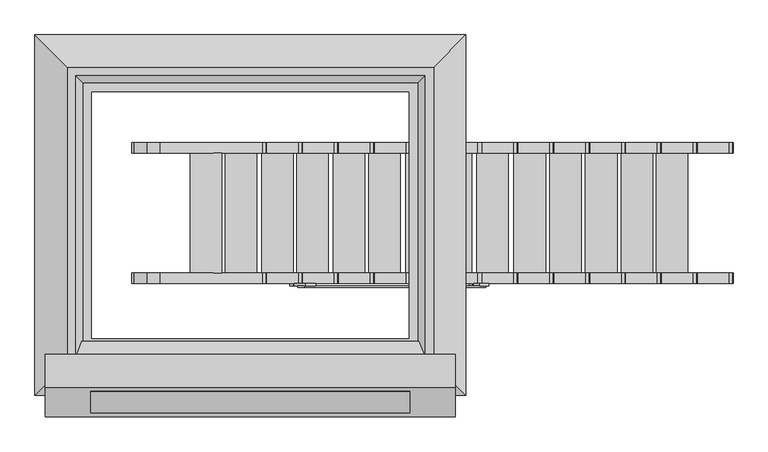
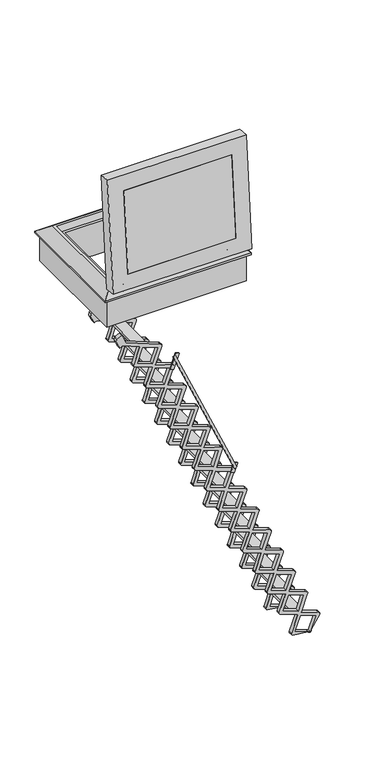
"""IFC4 building model written with IfcOpenShell, lengths in millimetres: proxy geometry, 1_Topaccess_dakluik_900x700_Staka : 900 x 700 Scissor stair."""

from ifc_helpers import new_model, si_unit, point, frame, frame_2d, origin, place, context, project, spatial, polyline, circle_curve, trimmed, segment, composite_curve, outline, extrude, faceted_brep, source, transform, mapped, element, save


def generic_models_e3b8b6f7(model_context):
    return source(origin(), model_context, "Body", "SolidModel", [
        extrude(outline(polyline([(570.5470332, 309.5637489), (660.5470332, 309.5637489), (660.5470332, -30.4362511), (570.5470332, -30.4362511), (570.5470332, 309.5637489)])), frame((0.0, 0.0, -3347.8373156), z_axis=(0.0, 0.0, 1.0), x_axis=(1.0, 0.0, 0.0)), (0.0, 0.0, 1.0), 20.0),
        extrude(outline(polyline([(471.2317417, 309.5637489), (561.2317417, 309.5637489), (561.2317417, -30.4362511), (471.2317417, -30.4362511), (471.2317417, 309.5637489)])), frame((0.0, 0.0, -3134.8549856), z_axis=(0.0, 0.0, 1.0), x_axis=(1.0, 0.0, 0.0)), (0.0, 0.0, 1.0), 20.0),
        extrude(outline(polyline([(369.8033589, 309.5637489), (459.8033589, 309.5637489), (459.8033589, -30.4362511), (369.8033589, -30.4362511), (369.8033589, 309.5637489)])), frame((0.0, 0.0, -2917.3411167), z_axis=(0.0, 0.0, 1.0), x_axis=(1.0, 0.0, 0.0)), (0.0, 0.0, 1.0), 20.0),
        extrude(outline(polyline([(268.3749761, 309.5637489), (358.3749761, 309.5637489), (358.3749761, -30.4362511), (268.3749761, -30.4362511), (268.3749761, 309.5637489)])), frame((0.0, 0.0, -2699.8272479), z_axis=(0.0, 0.0, 1.0), x_axis=(1.0, 0.0, 0.0)), (0.0, 0.0, 1.0), 20.0),
        extrude(outline(polyline([(166.9465933, 309.5637489), (256.9465933, 309.5637489), (256.9465933, -30.4362511), (166.9465933, -30.4362511), (166.9465933, 309.5637489)])), frame((0.0, 0.0, -2482.313379), z_axis=(0.0, 0.0, 1.0), x_axis=(1.0, 0.0, 0.0)), (0.0, 0.0, 1.0), 20.0),
        extrude(outline(polyline([(61.2920279, 309.5637489), (151.2920279, 309.5637489), (151.2920279, -30.4362511), (61.2920279, -30.4362511), (61.2920279, 309.5637489)])), frame((0.0, 0.0, -2255.7364322), z_axis=(0.0, 0.0, 1.0), x_axis=(1.0, 0.0, 0.0)), (0.0, 0.0, 1.0), 20.0),
        extrude(outline(polyline([(-42.2494463, 309.5637489), (47.7505537, 309.5637489), (47.7505537, -30.4362511), (-42.2494463, -30.4362511), (-42.2494463, 309.5637489)])), frame((0.0, 0.0, -2033.6910244), z_axis=(0.0, 0.0, 1.0), x_axis=(1.0, 0.0, 0.0)), (0.0, 0.0, 1.0), 20.0),
        extrude(outline(polyline([(-139.4516465, 309.5637489), (-49.4516465, 309.5637489), (-49.4516465, -30.4362511), (-139.4516465, -30.4362511), (-139.4516465, 309.5637489)])), frame((0.0, 0.0, -1825.2402334), z_axis=(0.0, 0.0, 1.0), x_axis=(1.0, 0.0, 0.0)), (0.0, 0.0, 1.0), 20.0),
        extrude(outline(polyline([(-245.1062119, 309.5637489), (-155.1062119, 309.5637489), (-155.1062119, -30.4362511), (-245.1062119, -30.4362511), (-245.1062119, 309.5637489)])), frame((0.0, 0.0, -1598.6632866), z_axis=(0.0, 0.0, 1.0), x_axis=(1.0, 0.0, 0.0)), (0.0, 0.0, 1.0), 20.0),
        extrude(outline(polyline([(-346.5345947, 309.5637489), (-256.5345947, 309.5637489), (-256.5345947, -30.4362511), (-346.5345947, -30.4362511), (-346.5345947, 309.5637489)])), frame((0.0, 0.0, -1381.1494177), z_axis=(0.0, 0.0, 1.0), x_axis=(1.0, 0.0, 0.0)), (0.0, 0.0, 1.0), 20.0),
        extrude(outline(polyline([(-450.0760689, 309.5637489), (-360.0760689, 309.5637489), (-360.0760689, -30.4362511), (-450.0760689, -30.4362511), (-450.0760689, 309.5637489)])), frame((0.0, 0.0, -1159.1040099), z_axis=(0.0, 0.0, 1.0), x_axis=(1.0, 0.0, 0.0)), (0.0, 0.0, 1.0), 20.0),
        extrude(outline(polyline([(-549.3913604, 309.5637489), (-459.3913604, 309.5637489), (-459.3913604, -30.4362511), (-549.3913604, -30.4362511), (-549.3913604, 309.5637489)])), frame((0.0, 0.0, -946.1216799), z_axis=(0.0, 0.0, 1.0), x_axis=(1.0, 0.0, 0.0)), (0.0, 0.0, 1.0), 20.0),
        extrude(outline(polyline([(-752.248126, 309.5637489), (-662.248126, 309.5637489), (-662.248126, -30.4362511), (-752.248126, -30.4362511), (-752.248126, 309.5637489)])), frame((0.0, 0.0, -511.0939422), z_axis=(0.0, 0.0, 1.0), x_axis=(1.0, 0.0, 0.0)), (0.0, 0.0, 1.0), 20.0),
        extrude(outline(polyline([(-1848.5871863, 87.1568399), (-679.430112, -428.6620593), (-687.8824772, -446.788215), (-1857.0395515, 69.0306842), (-1848.5871863, 87.1568399)])), frame((0.0, -71.8125013, 0.0), z_axis=(0.0, 1.0, 0.0), x_axis=(0.0, 0.0, 1.0)), (0.0, 0.0, 1.0), 4.2391265),
        extrude(outline(polyline([(-1818.2857955, 96.1520297), (-1808.0251912, 67.961251), (-1852.2156844, 51.8772269), (-1859.155812, 49.351227), (-1884.6989082, 40.0543003), (-1894.9595125, 68.2450789), (-1818.2857955, 96.1520297)])), frame((0.0, -67.5733748, 0.0), z_axis=(0.0, 1.0, 0.0), x_axis=(0.0, 0.0, 1.0)), (0.0, 0.0, 1.0), 7.1371237),
        extrude(outline(polyline([(-675.6789088, -395.3713998), (-665.4183045, -423.5621784), (-759.3305986, -457.7434581), (-766.2707262, -460.269458), (-791.8138224, -469.5663847), (-802.0744267, -441.3756061), (-675.6789088, -395.3713998)])), frame((0.0, -67.5733748, 0.0), z_axis=(0.0, 1.0, 0.0), x_axis=(0.0, 0.0, 1.0)), (0.0, 0.0, 1.0), 7.1371237),
        extrude(outline(polyline([(-652.9328345, 309.5637489), (-562.9328345, 309.5637489), (-562.9328345, -30.4362511), (-652.9328345, -30.4362511), (-652.9328345, 309.5637489)])), frame((0.0, 0.0, -724.0762721), z_axis=(0.0, 0.0, 1.0), x_axis=(1.0, 0.0, 0.0)), (0.0, 0.0, 1.0), 20.0),
        extrude(outline(composite_curve([segment(polyline([(-400.0, -918.1389816), (-459.6841455, -890.3078075), (-448.5287135, -866.3849064), (-505.7536819, -720.064007), (-651.1714225, -772.9917361)]), True, "CONTINUOUS"), segment(trimmed(circle_curve(frame_2d((-657.6247309, -755.2614169)), 18.8682116), [point((-651.1714225, -772.9917361))], [point((-662.9141564, -773.3730537))], False, "CARTESIAN"), True, "CONTINUOUS"), segment(trimmed(circle_curve(frame_2d((-653.5829213, -756.9737409)), 18.8682116), [point((-662.9141564, -773.3730537))], [point((-671.3132405, -763.4270493))], False, "CARTESIAN"), True, "CONTINUOUS"), segment(polyline([(-671.3132405, -763.4270493), (-724.2509683, -617.9818375), (-869.9038249, -670.9951418)]), True, "CONTINUOUS"), segment(trimmed(circle_curve(frame_2d((-876.3571333, -653.2648226)), 18.8682116), [point((-869.9038249, -670.9951418))], [point((-881.6465588, -671.3764593))], False, "CARTESIAN"), True, "CONTINUOUS"), segment(trimmed(circle_curve(frame_2d((-872.3153237, -654.9771466)), 18.8682116), [point((-881.6465588, -671.3764593))], [point((-890.0456429, -661.430455))], False, "CARTESIAN"), True, "CONTINUOUS"), segment(polyline([(-890.0456429, -661.430455), (-942.8977955, -516.2203591), (-1088.3155361, -569.1480882)]), True, "CONTINUOUS"), segment(trimmed(circle_curve(frame_2d((-1094.7688445, -551.417769)), 18.8682116), [point((-1088.3155361, -569.1480882))], [point((-1100.05827, -569.5294058))], False, "CARTESIAN"), True, "CONTINUOUS"), segment(trimmed(circle_curve(frame_2d((-1090.727035, -553.130093)), 18.8682116), [point((-1100.05827, -569.5294058))], [point((-1108.4573541, -559.5834014))], False, "CARTESIAN"), True, "CONTINUOUS"), segment(polyline([(-1108.4573541, -559.5834014), (-1161.395082, -414.1381896), (-1307.0479385, -467.1514939)]), True, "CONTINUOUS"), segment(trimmed(circle_curve(frame_2d((-1313.5012469, -449.4211747)), 18.8682116), [point((-1307.0479385, -467.1514939))], [point((-1318.7906724, -467.5328114))], False, "CARTESIAN"), True, "CONTINUOUS"), segment(trimmed(circle_curve(frame_2d((-1309.4594374, -451.1334987)), 18.8682116), [point((-1318.7906724, -467.5328114))], [point((-1327.1897565, -457.5868071))], False, "CARTESIAN"), True, "CONTINUOUS"), segment(polyline([(-1327.1897565, -457.5868071), (-1380.0419091, -312.3767112), (-1525.4596497, -365.3044403)]), True, "CONTINUOUS"), segment(trimmed(circle_curve(frame_2d((-1531.9129582, -347.5741211)), 18.8682116), [point((-1525.4596497, -365.3044403))], [point((-1537.2023836, -365.6857579))], False, "CARTESIAN"), True, "CONTINUOUS"), segment(trimmed(circle_curve(frame_2d((-1527.8711486, -349.2864451)), 18.8682116), [point((-1537.2023836, -365.6857579))], [point((-1545.6014678, -355.7397535))], False, "CARTESIAN"), True, "CONTINUOUS"), segment(polyline([(-1545.6014678, -355.7397535), (-1598.5886014, -210.1588002), (-1744.3771995, -263.2215103)]), True, "CONTINUOUS"), segment(trimmed(circle_curve(frame_2d((-1750.8305079, -245.4911912)), 18.8682116), [point((-1744.3771995, -263.2215103))], [point((-1756.1199334, -263.6028279))], False, "CARTESIAN"), True, "CONTINUOUS"), segment(trimmed(circle_curve(frame_2d((-1746.7886983, -247.2035151)), 18.8682116), [point((-1756.1199334, -263.6028279))], [point((-1764.5190175, -253.6568236))], False, "CARTESIAN"), True, "CONTINUOUS"), segment(polyline([(-1764.5190175, -253.6568236), (-1817.3711701, -108.4467277), (-1962.7889107, -161.3744568)]), True, "CONTINUOUS"), segment(trimmed(circle_curve(frame_2d((-1969.2422191, -143.6441376)), 18.8682116), [point((-1962.7889107, -161.3744568))], [point((-1974.5316446, -161.7557743))], False, "CARTESIAN"), True, "CONTINUOUS"), segment(trimmed(circle_curve(frame_2d((-1965.2004096, -145.3564616)), 18.8682116), [point((-1974.5316446, -161.7557743))], [point((-1982.9307287, -151.80977))], False, "CARTESIAN"), True, "CONTINUOUS"), segment(polyline([(-1982.9307287, -151.80977), (-2035.8684566, -6.3645581), (-2181.5213131, -59.3778624)]), True, "CONTINUOUS"), segment(trimmed(circle_curve(frame_2d((-2187.9746215, -41.6475433)), 18.8682116), [point((-2181.5213131, -59.3778624))], [point((-2193.264047, -59.75918))], False, "CARTESIAN"), True, "CONTINUOUS"), segment(trimmed(circle_curve(frame_2d((-2183.932812, -43.3598672)), 18.8682116), [point((-2193.264047, -59.75918))], [point((-2201.6631311, -49.8131757))], False, "CARTESIAN"), True, "CONTINUOUS"), segment(polyline([(-2201.6631311, -49.8131757), (-2254.5152837, 95.3969202), (-2399.9330243, 42.4691911)]), True, "CONTINUOUS"), segment(trimmed(circle_curve(frame_2d((-2406.3863327, 60.1995103)), 18.8682116), [point((-2399.9330243, 42.4691911))], [point((-2411.6757582, 42.0878736))], False, "CARTESIAN"), True, "CONTINUOUS"), segment(trimmed(circle_curve(frame_2d((-2402.3445232, 58.4871863)), 18.8682116), [point((-2411.6757582, 42.0878736))], [point((-2420.0748423, 52.0338779))], False, "CARTESIAN"), True, "CONTINUOUS"), segment(polyline([(-2420.0748423, 52.0338779), (-2473.0125702, 197.4790898), (-2618.6654267, 144.4657855)]), True, "CONTINUOUS"), segment(trimmed(circle_curve(frame_2d((-2625.1187351, 162.1961046)), 18.8682116), [point((-2618.6654267, 144.4657855))], [point((-2630.4081606, 144.0844679))], False, "CARTESIAN"), True, "CONTINUOUS"), segment(trimmed(circle_curve(frame_2d((-2621.0769256, 160.4837807)), 18.8682116), [point((-2630.4081606, 144.0844679))], [point((-2638.8072447, 154.0304722))], False, "CARTESIAN"), True, "CONTINUOUS"), segment(polyline([(-2638.8072447, 154.0304722), (-2691.6593974, 299.2405681), (-2837.0771379, 246.312839)]), True, "CONTINUOUS"), segment(trimmed(circle_curve(frame_2d((-2843.5304464, 264.0431582)), 18.8682116), [point((-2837.0771379, 246.312839))], [point((-2848.8198718, 245.9315215))], False, "CARTESIAN"), True, "CONTINUOUS"), segment(trimmed(circle_curve(frame_2d((-2839.4886368, 262.3308342)), 18.8682116), [point((-2848.8198718, 245.9315215))], [point((-2857.218956, 255.8775258))], False, "CARTESIAN"), True, "CONTINUOUS"), segment(polyline([(-2857.218956, 255.8775258), (-2910.1566838, 401.3227377), (-3055.8095403, 348.3094333)]), True, "CONTINUOUS"), segment(trimmed(circle_curve(frame_2d((-3062.2628488, 366.0397525)), 18.8682116), [point((-3055.8095403, 348.3094333))], [point((-3067.5522742, 347.9281158))], False, "CARTESIAN"), True, "CONTINUOUS"), segment(trimmed(circle_curve(frame_2d((-3058.2210392, 364.3274286)), 18.8682116), [point((-3067.5522742, 347.9281158))], [point((-3075.9513584, 357.8741201))], False, "CARTESIAN"), True, "CONTINUOUS"), segment(polyline([(-3075.9513584, 357.8741201), (-3128.803511, 503.084216), (-3274.2212516, 450.1564869)]), True, "CONTINUOUS"), segment(trimmed(circle_curve(frame_2d((-3280.67456, 467.8868061)), 18.8682116), [point((-3274.2212516, 450.1564869))], [point((-3285.9639855, 449.7751693))], False, "CARTESIAN"), True, "CONTINUOUS"), segment(trimmed(circle_curve(frame_2d((-3276.6327504, 466.1744821)), 18.8682116), [point((-3285.9639855, 449.7751693))], [point((-3294.3630696, 459.7211737))], False, "CARTESIAN"), True, "CONTINUOUS"), segment(polyline([(-3294.3630696, 459.7211737), (-3347.3385857, 605.2702079), (-3492.8876199, 552.2946918)]), True, "CONTINUOUS"), segment(trimmed(circle_curve(frame_2d((-3499.3409283, 570.025011)), 18.8682116), [point((-3492.8876199, 552.2946918))], [point((-3505.9055284, 552.3355952))], False, "CARTESIAN"), True, "CONTINUOUS"), segment(trimmed(circle_curve(frame_2d((-3495.4311869, 568.0294659)), 18.8682116), [point((-3505.9055284, 552.3355952))], [point((-3513.1615061, 561.5761575))], False, "CARTESIAN"), True, "CONTINUOUS"), segment(polyline([(-3513.1615061, 561.5761575), (-3529.9223168, 690.3237832)]), True, "CONTINUOUS"), segment(trimmed(circle_curve(frame_2d((-3523.5830429, 703.9184)), 15.0), [point((-3529.9223168, 690.3237832))], [point((-3535.6258818, 712.8609965))], False, "CARTESIAN"), True, "CONTINUOUS"), segment(trimmed(circle_curve(frame_2d((-3523.5830429, 703.9184)), 15.0), [point((-3535.6258818, 712.8609965))], [point((-3517.1032288, 717.4465931))], False, "CARTESIAN"), True, "CONTINUOUS"), segment(polyline([(-3517.1032288, 717.4465931), (-3407.87312, 788.1656253)]), True, "CONTINUOUS"), segment(trimmed(circle_curve(frame_2d((-3400.887595, 769.981058)), 19.4801449), [point((-3407.87312, 788.1656253))], [point((-3395.0042927, 788.55154))], False, "CARTESIAN"), True, "CONTINUOUS"), segment(trimmed(circle_curve(frame_2d((-3405.5582289, 772.1840786)), 19.4750959), [point((-3395.0042927, 788.55154))], [point((-3387.1280326, 778.477506))], False, "CARTESIAN"), True, "CONTINUOUS"), segment(polyline([(-3387.1280326, 778.477506), (-3334.5756226, 632.6404705), (-3189.0779339, 686.1252283)]), True, "CONTINUOUS"), segment(trimmed(circle_curve(frame_2d((-3182.0522773, 667.9615417)), 19.4750959), [point((-3189.0779339, 686.1252283))], [point((-3176.2980138, 686.5671272))], False, "CARTESIAN"), True, "CONTINUOUS"), segment(trimmed(circle_curve(frame_2d((-3186.7421145, 670.1233805)), 19.4801449), [point((-3176.2980138, 686.5671272))], [point((-3168.3217189, 676.4609724))], False, "CARTESIAN"), True, "CONTINUOUS"), segment(polyline([(-3168.3217189, 676.4609724), (-3116.1639114, 530.7934169), (-2970.6662227, 584.2781747)]), True, "CONTINUOUS"), segment(trimmed(circle_curve(frame_2d((-2963.6405661, 566.1144881)), 19.4750959), [point((-2970.6662227, 584.2781747))], [point((-2957.8863026, 584.7200737))], False, "CARTESIAN"), True, "CONTINUOUS"), segment(trimmed(circle_curve(frame_2d((-2968.3304033, 568.276327)), 19.4801449), [point((-2957.8863026, 584.7200737))], [point((-2949.9100077, 574.6139189))], False, "CARTESIAN"), True, "CONTINUOUS"), segment(polyline([(-2949.9100077, 574.6139189), (-2897.6675829, 428.7100421), (-2751.9338203, 482.2815804)]), True, "CONTINUOUS"), segment(trimmed(circle_curve(frame_2d((-2744.9081637, 464.1178938)), 19.4750959), [point((-2751.9338203, 482.2815804))], [point((-2739.1539002, 482.7234794))], False, "CARTESIAN"), True, "CONTINUOUS"), segment(trimmed(circle_curve(frame_2d((-2749.5980009, 466.2797326)), 19.4801449), [point((-2739.1539002, 482.7234794))], [point((-2731.1776053, 472.6173245))], False, "CARTESIAN"), True, "CONTINUOUS"), segment(polyline([(-2731.1776053, 472.6173245), (-2679.0197978, 326.949769), (-2533.5221091, 380.4345268)]), True, "CONTINUOUS"), segment(trimmed(circle_curve(frame_2d((-2526.4964524, 362.2708402)), 19.4750959), [point((-2533.5221091, 380.4345268))], [point((-2520.7421889, 380.8764258))], False, "CARTESIAN"), True, "CONTINUOUS"), segment(trimmed(circle_curve(frame_2d((-2531.1862897, 364.4326791)), 19.4801449), [point((-2520.7421889, 380.8764258))], [point((-2512.7658941, 370.770271))], False, "CARTESIAN"), True, "CONTINUOUS"), segment(polyline([(-2512.7658941, 370.770271), (-2460.5234693, 224.8663942), (-2314.7897067, 278.4379325)]), True, "CONTINUOUS"), segment(trimmed(circle_curve(frame_2d((-2307.76405, 260.2742459)), 19.4750959), [point((-2314.7897067, 278.4379325))], [point((-2302.0097866, 278.8798315))], False, "CARTESIAN"), True, "CONTINUOUS"), segment(trimmed(circle_curve(frame_2d((-2312.4538873, 262.4360847)), 19.4801449), [point((-2302.0097866, 278.8798315))], [point((-2294.0334917, 268.7736766))], False, "CARTESIAN"), True, "CONTINUOUS"), segment(polyline([(-2294.0334917, 268.7736766), (-2241.8756842, 123.1061211), (-2096.3779954, 176.5908789)]), True, "CONTINUOUS"), segment(trimmed(circle_curve(frame_2d((-2089.3523388, 158.4271923)), 19.4750959), [point((-2096.3779954, 176.5908789))], [point((-2083.5980753, 177.0327779))], False, "CARTESIAN"), True, "CONTINUOUS"), segment(trimmed(circle_curve(frame_2d((-2094.0421761, 160.5890312)), 19.4801449), [point((-2083.5980753, 177.0327779))], [point((-2075.6217804, 166.9266231))], False, "CARTESIAN"), True, "CONTINUOUS"), segment(polyline([(-2075.6217804, 166.9266231), (-2023.3793556, 21.0227463), (-1877.6455931, 74.5942846)]), True, "CONTINUOUS"), segment(trimmed(circle_curve(frame_2d((-1870.6199364, 56.430598)), 19.4750959), [point((-1877.6455931, 74.5942846))], [point((-1864.8656729, 75.0361836))], False, "CARTESIAN"), True, "CONTINUOUS"), segment(trimmed(circle_curve(frame_2d((-1875.3097737, 58.5924368)), 19.4801449), [point((-1864.8656729, 75.0361836))], [point((-1856.889378, 64.9300287))], False, "CARTESIAN"), True, "CONTINUOUS"), segment(polyline([(-1856.889378, 64.9300287), (-1804.7315705, -80.7375268), (-1659.2338818, -27.252769)]), True, "CONTINUOUS"), segment(trimmed(circle_curve(frame_2d((-1652.2082252, -45.4164556)), 19.4750959), [point((-1659.2338818, -27.252769))], [point((-1646.4539617, -26.81087))], False, "CARTESIAN"), True, "CONTINUOUS"), segment(trimmed(circle_curve(frame_2d((-1656.8980625, -43.2546167)), 19.4801449), [point((-1646.4539617, -26.81087))], [point((-1638.4776668, -36.9170248))], False, "CARTESIAN"), True, "CONTINUOUS"), segment(polyline([(-1638.4776668, -36.9170248), (-1586.1863892, -182.9573389), (-1440.3163321, -129.3356989)]), True, "CONTINUOUS"), segment(trimmed(circle_curve(frame_2d((-1433.2906755, -147.4993855)), 19.4750959), [point((-1440.3163321, -129.3356989))], [point((-1427.536412, -128.8938))], False, "CARTESIAN"), True, "CONTINUOUS"), segment(trimmed(circle_curve(frame_2d((-1437.9805127, -145.3375467)), 19.4801449), [point((-1427.536412, -128.8938))], [point((-1419.5601171, -138.9999548))], False, "CARTESIAN"), True, "CONTINUOUS"), segment(polyline([(-1419.5601171, -138.9999548), (-1367.4023096, -284.6675103), (-1221.9046209, -231.1827525)]), True, "CONTINUOUS"), segment(trimmed(circle_curve(frame_2d((-1214.8789642, -249.3464391)), 19.4750959), [point((-1221.9046209, -231.1827525))], [point((-1209.1247007, -230.7408535))], False, "CARTESIAN"), True, "CONTINUOUS"), segment(trimmed(circle_curve(frame_2d((-1219.5688015, -247.1846003)), 19.4801449), [point((-1209.1247007, -230.7408535))], [point((-1201.1484059, -240.8470084))], False, "CARTESIAN"), True, "CONTINUOUS"), segment(polyline([(-1201.1484059, -240.8470084), (-1148.905981, -386.7508851), (-1003.1722185, -333.1793468)]), True, "CONTINUOUS"), segment(trimmed(circle_curve(frame_2d((-996.1465618, -351.3430334)), 19.4750959), [point((-1003.1722185, -333.1793468))], [point((-990.3922983, -332.7374479))], False, "CARTESIAN"), True, "CONTINUOUS"), segment(trimmed(circle_curve(frame_2d((-1000.8363991, -349.1811946)), 19.4801449), [point((-990.3922983, -332.7374479))], [point((-982.4160035, -342.8436027))], False, "CARTESIAN"), True, "CONTINUOUS"), segment(polyline([(-982.4160035, -342.8436027), (-930.258196, -488.5111582), (-784.7605072, -435.0264004)]), True, "CONTINUOUS"), segment(trimmed(circle_curve(frame_2d((-777.7348506, -453.190087)), 19.4750959), [point((-784.7605072, -435.0264004))], [point((-771.9805871, -434.5845014))], False, "CARTESIAN"), True, "CONTINUOUS"), segment(trimmed(circle_curve(frame_2d((-782.4246879, -451.0282482)), 19.4801449), [point((-771.9805871, -434.5845014))], [point((-764.0042922, -444.6906563))], False, "CARTESIAN"), True, "CONTINUOUS"), segment(polyline([(-764.0042922, -444.6906563), (-711.7618674, -590.594533), (-566.0281048, -537.0229947)]), True, "CONTINUOUS"), segment(trimmed(circle_curve(frame_2d((-559.0024482, -555.1866813)), 19.4750959), [point((-566.0281048, -537.0229947))], [point((-553.2481847, -536.5810958))], False, "CARTESIAN"), True, "CONTINUOUS"), segment(trimmed(circle_curve(frame_2d((-563.6922855, -553.0248425)), 19.4801449), [point((-553.2481847, -536.5810958))], [point((-545.2718898, -546.6872506))], False, "CARTESIAN"), True, "CONTINUOUS"), segment(polyline([(-545.2718898, -546.6872506), (-431.6663168, -837.1700604), (-353.0603882, -873.8246069), (-371.3705305, -913.0908337), (-400.0, -918.1389816)]), True, "CONTINUOUS")], self_intersect=False), holes=[polyline([(-3410.9584344, 754.3718745), (-3534.9785883, 709.2322301), (-3489.8389438, 585.2120762), (-3365.8187899, 630.3517207), (-3410.9584344, 754.3718745)]), polyline([(-3192.226032, 652.3752802), (-3316.2461859, 607.2356358), (-3271.1065414, 483.2154819), (-3147.0863875, 528.3551263), (-3192.226032, 652.3752802)]), polyline([(-2973.8143208, 550.5282266), (-3097.8344746, 505.3885822), (-3052.6948302, 381.3684283), (-2928.6746763, 426.5080728), (-2973.8143208, 550.5282266)]), polyline([(-2755.0819184, 448.5316323), (-2879.1020722, 403.3919879), (-2833.9624278, 279.371834), (-2709.9422739, 324.5114784), (-2755.0819184, 448.5316323)]), polyline([(-2536.6702071, 346.6845787), (-2660.690361, 301.5449343), (-2615.5507166, 177.5247804), (-2491.5305627, 222.6644249), (-2536.6702071, 346.6845787)]), polyline([(-2317.9378047, 244.6879844), (-2441.9579586, 199.54834), (-2396.8183142, 75.5281861), (-2272.7981603, 120.6678305), (-2317.9378047, 244.6879844)]), polyline([(-2099.5260935, 142.8409308), (-2223.5462474, 97.7012864), (-2178.4066029, -26.3188675), (-2054.3864491, 18.820777), (-2099.5260935, 142.8409308)]), polyline([(-1880.7936911, 40.8443365), (-2004.813845, -4.2953079), (-1959.6742005, -128.3154618), (-1835.6540467, -83.1758174), (-1880.7936911, 40.8443365)]), polyline([(-1662.3819799, -61.0027171), (-1786.4021338, -106.1423615), (-1741.2624893, -230.1625154), (-1617.2423354, -185.0228709), (-1662.3819799, -61.0027171)]), polyline([(-1443.4644302, -163.085647), (-1567.484584, -208.2252915), (-1522.3449396, -332.2454453), (-1398.3247857, -287.1058009), (-1443.4644302, -163.085647)]), polyline([(-1225.0527189, -264.9327006), (-1349.0728728, -310.072345), (-1303.9332283, -434.0924989), (-1179.9130745, -388.9528545), (-1225.0527189, -264.9327006)]), polyline([(-1006.3203165, -366.9292949), (-1130.3404704, -412.0689394), (-1085.200826, -536.0890932), (-961.1806721, -490.9494488), (-1006.3203165, -366.9292949)]), polyline([(-787.9086053, -468.7763485), (-911.9287592, -513.9159929), (-866.7891147, -637.9361468), (-742.7689609, -592.7965024), (-787.9086053, -468.7763485)]), polyline([(-569.1762029, -570.7729428), (-693.1963568, -615.9125873), (-648.0567123, -739.9327411), (-524.0365585, -694.7930967), (-569.1762029, -570.7729428)])]), frame((0.0, -60.4362511, 0.0), z_axis=(0.0, 1.0, 0.0), x_axis=(0.0, 0.0, 1.0)), (0.0, 0.0, 1.0), 30.0),
        extrude(outline(composite_curve([segment(polyline([(-400.0, -918.1389816), (-459.6841455, -890.3078075), (-448.5287135, -866.3849064), (-505.7536819, -720.064007), (-651.1714225, -772.9917361)]), True, "CONTINUOUS"), segment(trimmed(circle_curve(frame_2d((-657.6247309, -755.2614169)), 18.8682116), [point((-651.1714225, -772.9917361))], [point((-662.9141564, -773.3730537))], False, "CARTESIAN"), True, "CONTINUOUS"), segment(trimmed(circle_curve(frame_2d((-653.5829213, -756.9737409)), 18.8682116), [point((-662.9141564, -773.3730537))], [point((-671.3132405, -763.4270493))], False, "CARTESIAN"), True, "CONTINUOUS"), segment(polyline([(-671.3132405, -763.4270493), (-724.2509683, -617.9818375), (-869.9038249, -670.9951418)]), True, "CONTINUOUS"), segment(trimmed(circle_curve(frame_2d((-876.3571333, -653.2648226)), 18.8682116), [point((-869.9038249, -670.9951418))], [point((-881.6465588, -671.3764593))], False, "CARTESIAN"), True, "CONTINUOUS"), segment(trimmed(circle_curve(frame_2d((-872.3153237, -654.9771466)), 18.8682116), [point((-881.6465588, -671.3764593))], [point((-890.0456429, -661.430455))], False, "CARTESIAN"), True, "CONTINUOUS"), segment(polyline([(-890.0456429, -661.430455), (-942.8977955, -516.2203591), (-1088.3155361, -569.1480882)]), True, "CONTINUOUS"), segment(trimmed(circle_curve(frame_2d((-1094.7688445, -551.417769)), 18.8682116), [point((-1088.3155361, -569.1480882))], [point((-1100.05827, -569.5294058))], False, "CARTESIAN"), True, "CONTINUOUS"), segment(trimmed(circle_curve(frame_2d((-1090.727035, -553.130093)), 18.8682116), [point((-1100.05827, -569.5294058))], [point((-1108.4573541, -559.5834014))], False, "CARTESIAN"), True, "CONTINUOUS"), segment(polyline([(-1108.4573541, -559.5834014), (-1161.395082, -414.1381896), (-1307.0479385, -467.1514939)]), True, "CONTINUOUS"), segment(trimmed(circle_curve(frame_2d((-1313.5012469, -449.4211747)), 18.8682116), [point((-1307.0479385, -467.1514939))], [point((-1318.7906724, -467.5328114))], False, "CARTESIAN"), True, "CONTINUOUS"), segment(trimmed(circle_curve(frame_2d((-1309.4594374, -451.1334987)), 18.8682116), [point((-1318.7906724, -467.5328114))], [point((-1327.1897565, -457.5868071))], False, "CARTESIAN"), True, "CONTINUOUS"), segment(polyline([(-1327.1897565, -457.5868071), (-1380.0419091, -312.3767112), (-1525.4596497, -365.3044403)]), True, "CONTINUOUS"), segment(trimmed(circle_curve(frame_2d((-1531.9129582, -347.5741211)), 18.8682116), [point((-1525.4596497, -365.3044403))], [point((-1537.2023836, -365.6857579))], False, "CARTESIAN"), True, "CONTINUOUS"), segment(trimmed(circle_curve(frame_2d((-1527.8711486, -349.2864451)), 18.8682116), [point((-1537.2023836, -365.6857579))], [point((-1545.6014678, -355.7397535))], False, "CARTESIAN"), True, "CONTINUOUS"), segment(polyline([(-1545.6014678, -355.7397535), (-1598.5886014, -210.1588002), (-1744.3771995, -263.2215103)]), True, "CONTINUOUS"), segment(trimmed(circle_curve(frame_2d((-1750.8305079, -245.4911912)), 18.8682116), [point((-1744.3771995, -263.2215103))], [point((-1756.1199334, -263.6028279))], False, "CARTESIAN"), True, "CONTINUOUS"), segment(trimmed(circle_curve(frame_2d((-1746.7886983, -247.2035151)), 18.8682116), [point((-1756.1199334, -263.6028279))], [point((-1764.5190175, -253.6568236))], False, "CARTESIAN"), True, "CONTINUOUS"), segment(polyline([(-1764.5190175, -253.6568236), (-1817.3711701, -108.4467277), (-1962.7889107, -161.3744568)]), True, "CONTINUOUS"), segment(trimmed(circle_curve(frame_2d((-1969.2422191, -143.6441376)), 18.8682116), [point((-1962.7889107, -161.3744568))], [point((-1974.5316446, -161.7557743))], False, "CARTESIAN"), True, "CONTINUOUS"), segment(trimmed(circle_curve(frame_2d((-1965.2004096, -145.3564616)), 18.8682116), [point((-1974.5316446, -161.7557743))], [point((-1982.9307287, -151.80977))], False, "CARTESIAN"), True, "CONTINUOUS"), segment(polyline([(-1982.9307287, -151.80977), (-2035.8684566, -6.3645581), (-2181.5213131, -59.3778624)]), True, "CONTINUOUS"), segment(trimmed(circle_curve(frame_2d((-2187.9746215, -41.6475433)), 18.8682116), [point((-2181.5213131, -59.3778624))], [point((-2193.264047, -59.75918))], False, "CARTESIAN"), True, "CONTINUOUS"), segment(trimmed(circle_curve(frame_2d((-2183.932812, -43.3598672)), 18.8682116), [point((-2193.264047, -59.75918))], [point((-2201.6631311, -49.8131757))], False, "CARTESIAN"), True, "CONTINUOUS"), segment(polyline([(-2201.6631311, -49.8131757), (-2254.5152837, 95.3969202), (-2399.9330243, 42.4691911)]), True, "CONTINUOUS"), segment(trimmed(circle_curve(frame_2d((-2406.3863327, 60.1995103)), 18.8682116), [point((-2399.9330243, 42.4691911))], [point((-2411.6757582, 42.0878736))], False, "CARTESIAN"), True, "CONTINUOUS"), segment(trimmed(circle_curve(frame_2d((-2402.3445232, 58.4871863)), 18.8682116), [point((-2411.6757582, 42.0878736))], [point((-2420.0748423, 52.0338779))], False, "CARTESIAN"), True, "CONTINUOUS"), segment(polyline([(-2420.0748423, 52.0338779), (-2473.0125702, 197.4790898), (-2618.6654267, 144.4657855)]), True, "CONTINUOUS"), segment(trimmed(circle_curve(frame_2d((-2625.1187351, 162.1961046)), 18.8682116), [point((-2618.6654267, 144.4657855))], [point((-2630.4081606, 144.0844679))], False, "CARTESIAN"), True, "CONTINUOUS"), segment(trimmed(circle_curve(frame_2d((-2621.0769256, 160.4837807)), 18.8682116), [point((-2630.4081606, 144.0844679))], [point((-2638.8072447, 154.0304722))], False, "CARTESIAN"), True, "CONTINUOUS"), segment(polyline([(-2638.8072447, 154.0304722), (-2691.6593974, 299.2405681), (-2837.0771379, 246.312839)]), True, "CONTINUOUS"), segment(trimmed(circle_curve(frame_2d((-2843.5304464, 264.0431582)), 18.8682116), [point((-2837.0771379, 246.312839))], [point((-2848.8198718, 245.9315215))], False, "CARTESIAN"), True, "CONTINUOUS"), segment(trimmed(circle_curve(frame_2d((-2839.4886368, 262.3308342)), 18.8682116), [point((-2848.8198718, 245.9315215))], [point((-2857.218956, 255.8775258))], False, "CARTESIAN"), True, "CONTINUOUS"), segment(polyline([(-2857.218956, 255.8775258), (-2910.1566838, 401.3227377), (-3055.8095403, 348.3094333)]), True, "CONTINUOUS"), segment(trimmed(circle_curve(frame_2d((-3062.2628488, 366.0397525)), 18.8682116), [point((-3055.8095403, 348.3094333))], [point((-3067.5522742, 347.9281158))], False, "CARTESIAN"), True, "CONTINUOUS"), segment(trimmed(circle_curve(frame_2d((-3058.2210392, 364.3274286)), 18.8682116), [point((-3067.5522742, 347.9281158))], [point((-3075.9513584, 357.8741201))], False, "CARTESIAN"), True, "CONTINUOUS"), segment(polyline([(-3075.9513584, 357.8741201), (-3128.803511, 503.084216), (-3274.2212516, 450.1564869)]), True, "CONTINUOUS"), segment(trimmed(circle_curve(frame_2d((-3280.67456, 467.8868061)), 18.8682116), [point((-3274.2212516, 450.1564869))], [point((-3285.9639855, 449.7751693))], False, "CARTESIAN"), True, "CONTINUOUS"), segment(trimmed(circle_curve(frame_2d((-3276.6327504, 466.1744821)), 18.8682116), [point((-3285.9639855, 449.7751693))], [point((-3294.3630696, 459.7211737))], False, "CARTESIAN"), True, "CONTINUOUS"), segment(polyline([(-3294.3630696, 459.7211737), (-3347.3385857, 605.2702079), (-3492.8876199, 552.2946918)]), True, "CONTINUOUS"), segment(trimmed(circle_curve(frame_2d((-3499.3409283, 570.025011)), 18.8682116), [point((-3492.8876199, 552.2946918))], [point((-3505.9055284, 552.3355952))], False, "CARTESIAN"), True, "CONTINUOUS"), segment(trimmed(circle_curve(frame_2d((-3495.4311869, 568.0294659)), 18.8682116), [point((-3505.9055284, 552.3355952))], [point((-3513.1615061, 561.5761575))], False, "CARTESIAN"), True, "CONTINUOUS"), segment(polyline([(-3513.1615061, 561.5761575), (-3529.9223168, 690.3237832)]), True, "CONTINUOUS"), segment(trimmed(circle_curve(frame_2d((-3523.5830429, 703.9184)), 15.0), [point((-3529.9223168, 690.3237832))], [point((-3535.6258818, 712.8609965))], False, "CARTESIAN"), True, "CONTINUOUS"), segment(trimmed(circle_curve(frame_2d((-3523.5830429, 703.9184)), 15.0), [point((-3535.6258818, 712.8609965))], [point((-3517.1032288, 717.4465931))], False, "CARTESIAN"), True, "CONTINUOUS"), segment(polyline([(-3517.1032288, 717.4465931), (-3407.87312, 788.1656253)]), True, "CONTINUOUS"), segment(trimmed(circle_curve(frame_2d((-3400.887595, 769.981058)), 19.4801449), [point((-3407.87312, 788.1656253))], [point((-3395.0042927, 788.55154))], False, "CARTESIAN"), True, "CONTINUOUS"), segment(trimmed(circle_curve(frame_2d((-3405.5582289, 772.1840786)), 19.4750959), [point((-3395.0042927, 788.55154))], [point((-3387.1280326, 778.477506))], False, "CARTESIAN"), True, "CONTINUOUS"), segment(polyline([(-3387.1280326, 778.477506), (-3334.5756226, 632.6404705), (-3189.0779339, 686.1252283)]), True, "CONTINUOUS"), segment(trimmed(circle_curve(frame_2d((-3182.0522773, 667.9615417)), 19.4750959), [point((-3189.0779339, 686.1252283))], [point((-3176.2980138, 686.5671272))], False, "CARTESIAN"), True, "CONTINUOUS"), segment(trimmed(circle_curve(frame_2d((-3186.7421145, 670.1233805)), 19.4801449), [point((-3176.2980138, 686.5671272))], [point((-3168.3217189, 676.4609724))], False, "CARTESIAN"), True, "CONTINUOUS"), segment(polyline([(-3168.3217189, 676.4609724), (-3116.1639114, 530.7934169), (-2970.6662227, 584.2781747)]), True, "CONTINUOUS"), segment(trimmed(circle_curve(frame_2d((-2963.6405661, 566.1144881)), 19.4750959), [point((-2970.6662227, 584.2781747))], [point((-2957.8863026, 584.7200737))], False, "CARTESIAN"), True, "CONTINUOUS"), segment(trimmed(circle_curve(frame_2d((-2968.3304033, 568.276327)), 19.4801449), [point((-2957.8863026, 584.7200737))], [point((-2949.9100077, 574.6139189))], False, "CARTESIAN"), True, "CONTINUOUS"), segment(polyline([(-2949.9100077, 574.6139189), (-2897.6675829, 428.7100421), (-2751.9338203, 482.2815804)]), True, "CONTINUOUS"), segment(trimmed(circle_curve(frame_2d((-2744.9081637, 464.1178938)), 19.4750959), [point((-2751.9338203, 482.2815804))], [point((-2739.1539002, 482.7234794))], False, "CARTESIAN"), True, "CONTINUOUS"), segment(trimmed(circle_curve(frame_2d((-2749.5980009, 466.2797326)), 19.4801449), [point((-2739.1539002, 482.7234794))], [point((-2731.1776053, 472.6173245))], False, "CARTESIAN"), True, "CONTINUOUS"), segment(polyline([(-2731.1776053, 472.6173245), (-2679.0197978, 326.949769), (-2533.5221091, 380.4345268)]), True, "CONTINUOUS"), segment(trimmed(circle_curve(frame_2d((-2526.4964524, 362.2708402)), 19.4750959), [point((-2533.5221091, 380.4345268))], [point((-2520.7421889, 380.8764258))], False, "CARTESIAN"), True, "CONTINUOUS"), segment(trimmed(circle_curve(frame_2d((-2531.1862897, 364.4326791)), 19.4801449), [point((-2520.7421889, 380.8764258))], [point((-2512.7658941, 370.770271))], False, "CARTESIAN"), True, "CONTINUOUS"), segment(polyline([(-2512.7658941, 370.770271), (-2460.5234693, 224.8663942), (-2314.7897067, 278.4379325)]), True, "CONTINUOUS"), segment(trimmed(circle_curve(frame_2d((-2307.76405, 260.2742459)), 19.4750959), [point((-2314.7897067, 278.4379325))], [point((-2302.0097866, 278.8798315))], False, "CARTESIAN"), True, "CONTINUOUS"), segment(trimmed(circle_curve(frame_2d((-2312.4538873, 262.4360847)), 19.4801449), [point((-2302.0097866, 278.8798315))], [point((-2294.0334917, 268.7736766))], False, "CARTESIAN"), True, "CONTINUOUS"), segment(polyline([(-2294.0334917, 268.7736766), (-2241.8756842, 123.1061211), (-2096.3779954, 176.5908789)]), True, "CONTINUOUS"), segment(trimmed(circle_curve(frame_2d((-2089.3523388, 158.4271923)), 19.4750959), [point((-2096.3779954, 176.5908789))], [point((-2083.5980753, 177.0327779))], False, "CARTESIAN"), True, "CONTINUOUS"), segment(trimmed(circle_curve(frame_2d((-2094.0421761, 160.5890312)), 19.4801449), [point((-2083.5980753, 177.0327779))], [point((-2075.6217804, 166.9266231))], False, "CARTESIAN"), True, "CONTINUOUS"), segment(polyline([(-2075.6217804, 166.9266231), (-2023.3793556, 21.0227463), (-1877.6455931, 74.5942846)]), True, "CONTINUOUS"), segment(trimmed(circle_curve(frame_2d((-1870.6199364, 56.430598)), 19.4750959), [point((-1877.6455931, 74.5942846))], [point((-1864.8656729, 75.0361836))], False, "CARTESIAN"), True, "CONTINUOUS"), segment(trimmed(circle_curve(frame_2d((-1875.3097737, 58.5924368)), 19.4801449), [point((-1864.8656729, 75.0361836))], [point((-1856.889378, 64.9300287))], False, "CARTESIAN"), True, "CONTINUOUS"), segment(polyline([(-1856.889378, 64.9300287), (-1804.7315705, -80.7375268), (-1659.2338818, -27.252769)]), True, "CONTINUOUS"), segment(trimmed(circle_curve(frame_2d((-1652.2082252, -45.4164556)), 19.4750959), [point((-1659.2338818, -27.252769))], [point((-1646.4539617, -26.81087))], False, "CARTESIAN"), True, "CONTINUOUS"), segment(trimmed(circle_curve(frame_2d((-1656.8980625, -43.2546167)), 19.4801449), [point((-1646.4539617, -26.81087))], [point((-1638.4776668, -36.9170248))], False, "CARTESIAN"), True, "CONTINUOUS"), segment(polyline([(-1638.4776668, -36.9170248), (-1586.1863892, -182.9573389), (-1440.3163321, -129.3356989)]), True, "CONTINUOUS"), segment(trimmed(circle_curve(frame_2d((-1433.2906755, -147.4993855)), 19.4750959), [point((-1440.3163321, -129.3356989))], [point((-1427.536412, -128.8938))], False, "CARTESIAN"), True, "CONTINUOUS"), segment(trimmed(circle_curve(frame_2d((-1437.9805127, -145.3375467)), 19.4801449), [point((-1427.536412, -128.8938))], [point((-1419.5601171, -138.9999548))], False, "CARTESIAN"), True, "CONTINUOUS"), segment(polyline([(-1419.5601171, -138.9999548), (-1367.4023096, -284.6675103), (-1221.9046209, -231.1827525)]), True, "CONTINUOUS"), segment(trimmed(circle_curve(frame_2d((-1214.8789642, -249.3464391)), 19.4750959), [point((-1221.9046209, -231.1827525))], [point((-1209.1247007, -230.7408535))], False, "CARTESIAN"), True, "CONTINUOUS"), segment(trimmed(circle_curve(frame_2d((-1219.5688015, -247.1846003)), 19.4801449), [point((-1209.1247007, -230.7408535))], [point((-1201.1484059, -240.8470084))], False, "CARTESIAN"), True, "CONTINUOUS"), segment(polyline([(-1201.1484059, -240.8470084), (-1148.905981, -386.7508851), (-1003.1722185, -333.1793468)]), True, "CONTINUOUS"), segment(trimmed(circle_curve(frame_2d((-996.1465618, -351.3430334)), 19.4750959), [point((-1003.1722185, -333.1793468))], [point((-990.3922983, -332.7374479))], False, "CARTESIAN"), True, "CONTINUOUS"), segment(trimmed(circle_curve(frame_2d((-1000.8363991, -349.1811946)), 19.4801449), [point((-990.3922983, -332.7374479))], [point((-982.4160035, -342.8436027))], False, "CARTESIAN"), True, "CONTINUOUS"), segment(polyline([(-982.4160035, -342.8436027), (-930.258196, -488.5111582), (-784.7605072, -435.0264004)]), True, "CONTINUOUS"), segment(trimmed(circle_curve(frame_2d((-777.7348506, -453.190087)), 19.4750959), [point((-784.7605072, -435.0264004))], [point((-771.9805871, -434.5845014))], False, "CARTESIAN"), True, "CONTINUOUS"), segment(trimmed(circle_curve(frame_2d((-782.4246879, -451.0282482)), 19.4801449), [point((-771.9805871, -434.5845014))], [point((-764.0042922, -444.6906563))], False, "CARTESIAN"), True, "CONTINUOUS"), segment(polyline([(-764.0042922, -444.6906563), (-711.7618674, -590.594533), (-566.0281048, -537.0229947)]), True, "CONTINUOUS"), segment(trimmed(circle_curve(frame_2d((-559.0024482, -555.1866813)), 19.4750959), [point((-566.0281048, -537.0229947))], [point((-553.2481847, -536.5810958))], False, "CARTESIAN"), True, "CONTINUOUS"), segment(trimmed(circle_curve(frame_2d((-563.6922855, -553.0248425)), 19.4801449), [point((-553.2481847, -536.5810958))], [point((-545.2718898, -546.6872506))], False, "CARTESIAN"), True, "CONTINUOUS"), segment(polyline([(-545.2718898, -546.6872506), (-431.6663168, -837.1700604), (-353.0603882, -873.8246069), (-371.3705305, -913.0908337), (-400.0, -918.1389816)]), True, "CONTINUOUS")], self_intersect=False), holes=[polyline([(-3410.9584344, 754.3718745), (-3534.9785883, 709.2322301), (-3489.8389438, 585.2120762), (-3365.8187899, 630.3517207), (-3410.9584344, 754.3718745)]), polyline([(-3192.226032, 652.3752802), (-3316.2461859, 607.2356358), (-3271.1065414, 483.2154819), (-3147.0863875, 528.3551263), (-3192.226032, 652.3752802)]), polyline([(-2973.8143208, 550.5282266), (-3097.8344746, 505.3885822), (-3052.6948302, 381.3684283), (-2928.6746763, 426.5080728), (-2973.8143208, 550.5282266)]), polyline([(-2755.0819184, 448.5316323), (-2879.1020722, 403.3919879), (-2833.9624278, 279.371834), (-2709.9422739, 324.5114784), (-2755.0819184, 448.5316323)]), polyline([(-2536.6702071, 346.6845787), (-2660.690361, 301.5449343), (-2615.5507166, 177.5247804), (-2491.5305627, 222.6644249), (-2536.6702071, 346.6845787)]), polyline([(-2317.9378047, 244.6879844), (-2441.9579586, 199.54834), (-2396.8183142, 75.5281861), (-2272.7981603, 120.6678305), (-2317.9378047, 244.6879844)]), polyline([(-2099.5260935, 142.8409308), (-2223.5462474, 97.7012864), (-2178.4066029, -26.3188675), (-2054.3864491, 18.820777), (-2099.5260935, 142.8409308)]), polyline([(-1880.7936911, 40.8443365), (-2004.813845, -4.2953079), (-1959.6742005, -128.3154618), (-1835.6540467, -83.1758174), (-1880.7936911, 40.8443365)]), polyline([(-1662.3819799, -61.0027171), (-1786.4021338, -106.1423615), (-1741.2624893, -230.1625154), (-1617.2423354, -185.0228709), (-1662.3819799, -61.0027171)]), polyline([(-1443.4644302, -163.085647), (-1567.484584, -208.2252915), (-1522.3449396, -332.2454453), (-1398.3247857, -287.1058009), (-1443.4644302, -163.085647)]), polyline([(-1225.0527189, -264.9327006), (-1349.0728728, -310.072345), (-1303.9332283, -434.0924989), (-1179.9130745, -388.9528545), (-1225.0527189, -264.9327006)]), polyline([(-1006.3203165, -366.9292949), (-1130.3404704, -412.0689394), (-1085.200826, -536.0890932), (-961.1806721, -490.9494488), (-1006.3203165, -366.9292949)]), polyline([(-787.9086053, -468.7763485), (-911.9287592, -513.9159929), (-866.7891147, -637.9361468), (-742.7689609, -592.7965024), (-787.9086053, -468.7763485)]), polyline([(-569.1762029, -570.7729428), (-693.1963568, -615.9125873), (-648.0567123, -739.9327411), (-524.0365585, -694.7930967), (-569.1762029, -570.7729428)])]), frame((0.0, 309.5637489, 0.0), z_axis=(0.0, 1.0, 0.0), x_axis=(0.0, 0.0, 1.0)), (0.0, 0.0, 1.0), 30.0),
        extrude(outline(composite_curve([segment(polyline([(-354.3587615, 273.7553144), (-365.8649084, 288.1379982)]), True, "CONTINUOUS"), segment(trimmed(circle_curve(frame_2d((-360.5095045, 292.4223213)), 6.8582634), [point((-365.8649084, 288.1379982))], [point((-367.181926, 294.0080602))], False, "CARTESIAN"), True, "CONTINUOUS"), segment(polyline([(-367.181926, 294.0080602), (-349.9226192, 336.7263436)]), True, "CONTINUOUS"), segment(trimmed(circle_curve(frame_2d((-346.8978032, 335.5042386)), 3.2623692), [point((-349.9226192, 336.7263436))], [point((-344.376303, 333.4341928))], False, "CARTESIAN"), True, "CONTINUOUS"), segment(trimmed(circle_curve(frame_2d((-340.2194123, 331.6704159)), 4.5156006), [point((-344.376303, 333.4341928))], [point((-341.7830923, 327.4341966))], True, "CARTESIAN"), True, "CONTINUOUS"), segment(polyline([(-341.7830923, 327.4341966), (-304.4744431, 313.6627691), (-354.3587615, 273.7553144)]), True, "CONTINUOUS")], self_intersect=False)), frame((-1031.2697623, 0.0, 0.0), z_axis=(1.0, 0.0, 0.0), x_axis=(0.0, 1.0, 0.0)), (0.0, 0.0, 1.0), 33.7628423),
        extrude(outline(composite_curve([segment(polyline([(-354.3587615, 273.7553144), (-365.8649084, 288.1379982)]), True, "CONTINUOUS"), segment(trimmed(circle_curve(frame_2d((-360.5095045, 292.4223213)), 6.8582634), [point((-365.8649084, 288.1379982))], [point((-367.181926, 294.0080602))], False, "CARTESIAN"), True, "CONTINUOUS"), segment(polyline([(-367.181926, 294.0080602), (-349.9226192, 336.7263436)]), True, "CONTINUOUS"), segment(trimmed(circle_curve(frame_2d((-346.8978032, 335.5042386)), 3.2623692), [point((-349.9226192, 336.7263436))], [point((-344.376303, 333.4341928))], False, "CARTESIAN"), True, "CONTINUOUS"), segment(trimmed(circle_curve(frame_2d((-340.2194123, 331.6704159)), 4.5156006), [point((-344.376303, 333.4341928))], [point((-341.7830923, 327.4341966))], True, "CARTESIAN"), True, "CONTINUOUS"), segment(polyline([(-341.7830923, 327.4341966), (-304.4744431, 313.6627691), (-354.3587615, 273.7553144)]), True, "CONTINUOUS")], self_intersect=False)), frame((-162.9219079, 0.0, 0.0), z_axis=(1.0, 0.0, 0.0), x_axis=(0.0, 1.0, 0.0)), (0.0, 0.0, 1.0), 31.6521456),
        faceted_brep([(-61.2697623, 553.4470955, 328.0), (30.7302377, 645.4470955, 254.4), (-1193.2697623, 645.4470955, 254.4), (-1101.2697623, 553.4470955, 328.0), (-105.2697623, 509.4470955, 282.0), (-85.7439208, 528.9729371, 328.0), (-1076.7956039, 528.9729371, 328.0), (-1057.2697623, 509.4470955, 282.0), (-131.2697623, 483.4470955, 0.0), (-131.2697623, 483.4470955, 282.0), (-1031.2697623, 483.4470955, 282.0), (-1031.2697623, 483.4470955, 0.0), (4.7302377, 619.4470955, 240.0), (4.7302377, 619.4470955, 0.0), (-1167.2697623, 619.4470955, 0.0), (-1167.2697623, 619.4470955, 240.0), (30.7302377, 645.4470955, 240.0), (-1193.2697623, 645.4470955, 240.0), (-1193.2697623, -378.5529045, 254.4), (-1101.2697623, -286.5529045, 328.0), (-1076.7956039, -262.078746, 328.0), (-1057.2697623, -242.5529045, 282.0), (-1031.2697623, -216.5529045, 282.0), (-1031.2697623, -216.5529045, 0.0), (-1167.2697623, -352.5529045, 0.0), (-1167.2697623, -352.5529045, 240.0), (-1193.2697623, -378.5529045, 240.0), (30.7302377, -378.5529045, 254.4), (-61.2697623, -286.5529045, 328.0), (-85.7439208, -262.078746, 328.0), (-105.2697623, -242.5529045, 282.0), (-131.2697623, -216.5529045, 282.0), (-131.2697623, -216.5529045, 0.0), (4.7302377, -352.5529045, 0.0), (4.7302377, -352.5529045, 240.0), (30.7302377, -378.5529045, 240.0)], [[[0, 1, 2, 3]], [[4, 5, 6, 7]], [[8, 9, 10, 11]], [[12, 13, 14, 15]], [[1, 16, 17, 2]], [[3, 2, 18, 19]], [[7, 6, 20, 21]], [[11, 10, 22, 23]], [[15, 14, 24, 25]], [[2, 17, 26, 18]], [[19, 18, 27, 28]], [[21, 20, 29, 30]], [[23, 22, 31, 32]], [[25, 24, 33, 34]], [[18, 26, 35, 27]], [[28, 27, 1, 0]], [[3, 19, 28, 0], [5, 29, 20, 6]], [[30, 29, 5, 4]], [[7, 21, 30, 4], [9, 31, 22, 10]], [[32, 31, 9, 8]], [[13, 33, 24, 14], [11, 23, 32, 8]], [[34, 33, 13, 12]], [[16, 35, 26, 17], [15, 25, 34, 12]], [[27, 35, 16, 1]]]),
        extrude(outline(polyline([(0.0, -906.0), (0.0, 0.0), (139.4, 0.0), (139.4, -906.0), (0.0, -906.0)])), frame((-1034.2669339, -428.8183427, 470.0146001), z_axis=(0.0, 0.08715574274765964, 0.9961946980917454), x_axis=(0.0, 0.9961946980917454, -0.08715574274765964)), (0.0, 0.0, 1.0), 706.0),
        faceted_brep([(-128.2669339, -228.4168474, 1161.1785464), (-128.2669339, -367.2863883, 1173.328057), (-1034.2669339, -367.2863883, 1173.328057), (-1034.2669339, -228.4168474, 1161.1785464), (-85.2669339, -270.8925845, 1208.0589449), (-102.8669339, -226.2030916, 1186.4818918), (-1059.6669339, -226.2030916, 1186.4818918), (-1077.2669339, -270.8925845, 1208.0589449), (0.7330661, -356.0432975, 1301.837173), (0.7330661, -263.3971906, 1293.731689), (-1163.2669339, -263.3971906, 1293.731689), (-1163.2669339, -356.0432975, 1301.837173), (-1034.2669339, -428.8183427, 470.0146001), (-1034.2669339, -289.9488018, 457.8650896), (-1059.6669339, -292.1625577, 432.5617443), (-1077.2669339, -339.9199327, 419.072744), (-1163.2669339, -347.4153266, 333.4), (-1163.2669339, -440.0614335, 341.5054841), (-128.2669339, -428.8183427, 470.0146001), (-128.2669339, -289.9488018, 457.8650896), (-102.8669339, -292.1625577, 432.5617443), (-85.2669339, -339.9199327, 419.072744), (0.7330661, -347.4153266, 333.4), (0.7330661, -440.0614335, 341.5054841)], [[[0, 1, 2, 3]], [[4, 5, 6, 7]], [[8, 9, 10, 11]], [[3, 2, 12, 13]], [[7, 6, 14, 15]], [[11, 10, 16, 17]], [[13, 12, 18, 19]], [[15, 14, 20, 21]], [[17, 16, 22, 23]], [[19, 18, 1, 0]], [[5, 20, 14, 6], [3, 13, 19, 0]], [[21, 20, 5, 4]], [[9, 22, 16, 10], [7, 15, 21, 4]], [[23, 22, 9, 8]], [[11, 17, 23, 8], [1, 18, 12, 2]]]),
    ])


if __name__ == "__main__":
    model = new_model("IFC4")
    model_context = context("Model", 3, world=origin())
    ifc_project = project(units=[si_unit("LENGTHUNIT", "METRE", prefix="MILLI")], contexts=[model_context])
    site = spatial("IfcSite", under=ifc_project)
    building = spatial("IfcBuilding", under=site)
    placement = place(None, origin())
    generic_models_shape = generic_models_e3b8b6f7(model_context)
    element("IfcBuildingElementProxy", 1, Name="1_Topaccess_dakluik_900x700_Staka : 900 x 700 Scissor stair", ObjectType="1_Topaccess_dakluik_900x700_Staka : 900 x 700 Scissor stair", at=placement, inside=building, context=model_context, shape_type="MappedRepresentation", body=[
        mapped(generic_models_shape, transform((0.0, 0.0, 0.0), x_axis=(1.0, 0.0, 0.0), y_axis=(0.0, 1.0, 0.0), z_axis=(0.0, 0.0, 1.0))),
    ])
    save(model, "model.ifc")
